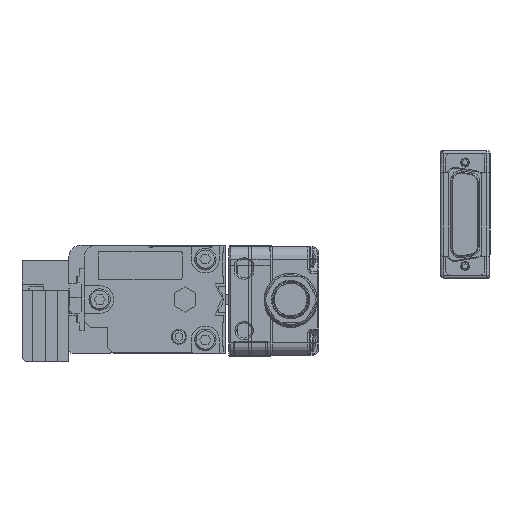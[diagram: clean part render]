
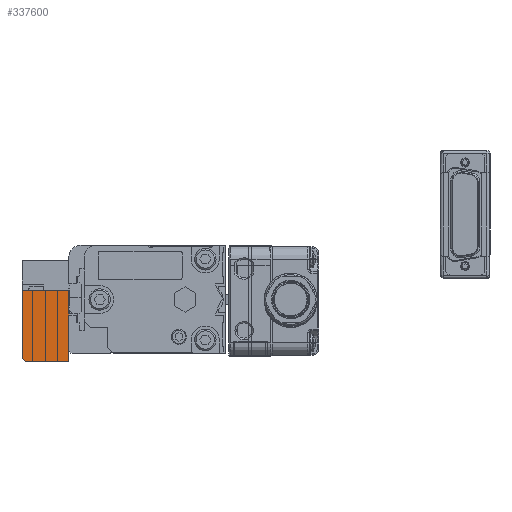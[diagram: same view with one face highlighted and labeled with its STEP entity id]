
A CAD part, left-side view. The second image highlights one B-rep face of the part: STEP entity #337600.
In plain terms, the highlighted planar face has unit normal (-1, 0, 0).
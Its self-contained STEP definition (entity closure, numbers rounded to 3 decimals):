
#206810=CARTESIAN_POINT('',(-5743.,107.5,12.51));
#206820=VERTEX_POINT('',#206810);
#257260=CARTESIAN_POINT('',(-5743.,107.5,1.51));
#257270=VERTEX_POINT('',#257260);
#257300=CARTESIAN_POINT('',(-5743.,107.5,17.3));
#257310=DIRECTION('',(0.,0.,-1.));
#257320=VECTOR('',#257310,1.);
#257330=LINE('',#257300,#257320);
#257340=EDGE_CURVE('',#206820,#257270,#257330,.T.);
#330740=CARTESIAN_POINT('',(-5743.,122.5,20.51));
#330750=VERTEX_POINT('',#330740);
#330780=CARTESIAN_POINT('',(-5743.,122.5,30.01));
#330790=DIRECTION('',(0.,0.,-1.));
#330800=VECTOR('',#330790,1.);
#330810=LINE('',#330780,#330800);
#330820=CARTESIAN_POINT('',(-5743.,122.5,-1.49));
#330830=VERTEX_POINT('',#330820);
#330840=EDGE_CURVE('',#330750,#330830,#330810,.T.);
#336360=CARTESIAN_POINT('',(-5743.,107.5,-2.49));
#336370=VERTEX_POINT('',#336360);
#336400=CARTESIAN_POINT('',(-5743.,107.5,16.81));
#336410=DIRECTION('',(0.,0.,1.));
#336420=VECTOR('',#336410,1.);
#336430=LINE('',#336400,#336420);
#336440=EDGE_CURVE('',#336370,#257270,#336430,.T.);
#337160=CARTESIAN_POINT('',(-5743.,107.5,20.51));
#337170=VERTEX_POINT('',#337160);
#337180=EDGE_CURVE('',#206820,#337170,#336430,.T.);
#337290=CARTESIAN_POINT('',(-5743.,107.5,30.01));
#337300=DIRECTION('',(-1.,-0.,-0.));
#337310=DIRECTION('',(0.,0.,-1.));
#337320=AXIS2_PLACEMENT_3D('',#337290,#337300,#337310);
#337330=PLANE('',#337320);
#337340=ORIENTED_EDGE('',*,*,#257340,.F.);
#337350=ORIENTED_EDGE('',*,*,#336440,.T.);
#337360=CARTESIAN_POINT('',(-5743.,90.75,-2.49));
#337370=DIRECTION('',(0.,-1.,0.));
#337380=VECTOR('',#337370,1.);
#337390=LINE('',#337360,#337380);
#337400=CARTESIAN_POINT('',(-5743.,121.5,-2.49));
#337410=VERTEX_POINT('',#337400);
#337420=EDGE_CURVE('',#337410,#336370,#337390,.T.);
#337430=ORIENTED_EDGE('',*,*,#337420,.T.);
#337440=CARTESIAN_POINT('',(-5743.,107.5,-16.49));
#337450=DIRECTION('',(0.,-0.707,-0.707));
#337460=VECTOR('',#337450,1.);
#337470=LINE('',#337440,#337460);
#337480=EDGE_CURVE('',#330830,#337410,#337470,.T.);
#337490=ORIENTED_EDGE('',*,*,#337480,.T.);
#337500=ORIENTED_EDGE('',*,*,#330840,.T.);
#337510=CARTESIAN_POINT('',(-5743.,107.5,20.51));
#337520=DIRECTION('',(0.,1.,0.));
#337530=VECTOR('',#337520,1.);
#337540=LINE('',#337510,#337530);
#337550=EDGE_CURVE('',#337170,#330750,#337540,.T.);
#337560=ORIENTED_EDGE('',*,*,#337550,.T.);
#337570=ORIENTED_EDGE('',*,*,#337180,.T.);
#337580=EDGE_LOOP('',(#337570,#337560,#337500,#337490,#337430,#337350,
#337340));
#337590=FACE_OUTER_BOUND('',#337580,.T.);
#337600=ADVANCED_FACE('',(#337590),#337330,.T.);
